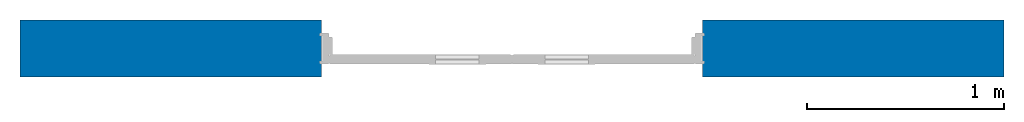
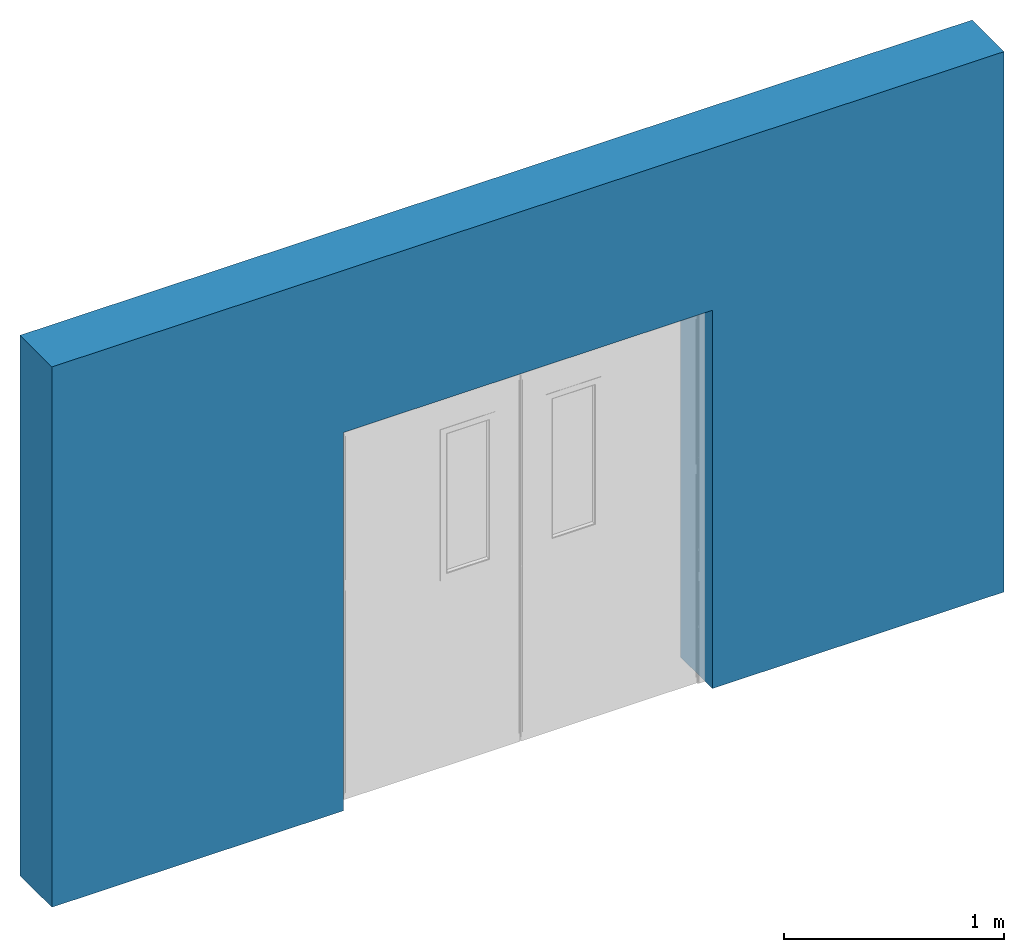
# One storey, incomplete: 1 wall, 1 opening.
"""IFC2X3 building model written with IfcOpenShell, lengths in millimetres."""

import ifcopenshell
import ifcopenshell.guid

model = None  # the IFC model being written
_history = None  # IfcOwnerHistory: only IFC2X3 demands one
_inside = {}  # id of a spatial element -> (the spatial element, [elements in it])
_under = {}  # id of a project, library or spatial element -> (it, [spatial elements below it])
_declared = {}  # id of a project -> (the project, [libraries it declares])
_typed = {}  # id of a type object -> (the type object, [elements of that type])
_made_of = {}  # id of a material, layer set ... -> (it, [elements and type objects made of it])


def new_model(schema):
    """Start an empty IFC model of exactly this schema.

    Asked for "IFC4X3", IfcOpenShell would pick the latest addendum, in which some entities
    have other attributes; the version numbers below select the first issue.
    IFC2X3 requires an IfcOwnerHistory on every rooted entity: one is made here for all.
    """
    global model, _history
    if schema == "IFC4X3":
        model = ifcopenshell.file(schema_version=(4, 3, 0, 0))
    else:
        model = ifcopenshell.file(schema=schema)
    _inside.clear()
    _under.clear()
    _declared.clear()
    _typed.clear()
    _made_of.clear()
    _history = None
    if model.schema == "IFC2X3":
        org = make("IfcOrganization", Name="unknown")
        user = make(
            "IfcPersonAndOrganization",
            ThePerson=make("IfcPerson", FamilyName="unknown"),
            TheOrganization=org,
        )
        app = make(
            "IfcApplication",
            ApplicationDeveloper=org,
            Version="unknown",
            ApplicationFullName="unknown",
            ApplicationIdentifier="unknown",
        )
        _history = make(
            "IfcOwnerHistory",
            OwningUser=user,
            OwningApplication=app,
            ChangeAction="ADDED",
            CreationDate=0,
        )
    return model


def make(cls, **values):
    """One entity of the class cls with the attributes given. An attribute that is None is left unset."""
    return model.create_entity(
        cls, **{name: value for name, value in values.items() if value is not None}
    )


def entity(cls, *values):
    """Any entity or typed value of the class cls, its attributes in the order of the schema. None: left unset."""
    e = model.create_entity(cls)
    for i, value in enumerate(values):
        if value is not None:
            e[i] = value
    return e


def rooted(cls, **values):
    """An entity with a GlobalId (a new one), such as an element, a storey or a relation."""
    return make(cls, GlobalId=ifcopenshell.guid.new(), OwnerHistory=_history, **values)


def si_unit(unit_type, name, prefix=None):
    """IfcSIUnit, for example si_unit("LENGTHUNIT", "METRE", prefix="MILLI")."""
    return make("IfcSIUnit", UnitType=unit_type, Prefix=prefix, Name=name)


def converted_unit(unit_type, name, factor, base, dimensions=None, offset=None):
    """IfcConversionBasedUnit, such as the inch: factor (a typed value) times the base unit."""
    return make(
        "IfcConversionBasedUnit"
        if offset is None
        else "IfcConversionBasedUnitWithOffset",
        ConversionOffset=offset,
        Dimensions=None
        if dimensions is None
        else entity("IfcDimensionalExponents", *dimensions),
        UnitType=unit_type,
        Name=name,
        ConversionFactor=make(
            "IfcMeasureWithUnit", ValueComponent=factor, UnitComponent=base
        ),
    )


def derived_unit(unit_type, elements):
    """IfcDerivedUnit: a product of units, each with its exponent."""
    return make(
        "IfcDerivedUnit",
        Elements=[
            make("IfcDerivedUnitElement", Unit=unit, Exponent=power)
            for unit, power in elements
        ],
        UnitType=unit_type,
    )


def assignment(units):
    """IfcUnitAssignment: the units of a project."""
    return None if units is None else make("IfcUnitAssignment", Units=units)


def point(xyz):
    """IfcCartesianPoint."""
    return None if xyz is None else make("IfcCartesianPoint", Coordinates=xyz)


def direction(xyz):
    """IfcDirection."""
    return None if xyz is None else make("IfcDirection", DirectionRatios=xyz)


def frame(location, z_axis=None, x_axis=None):
    """IfcAxis2Placement3D, a coordinate frame: its origin and axes. An axis left out is left unset."""
    return make(
        "IfcAxis2Placement3D",
        Location=point(location),
        Axis=direction(z_axis),
        RefDirection=direction(x_axis),
    )


def frame_2d(location, x_axis=None):
    """IfcAxis2Placement2D, a coordinate frame in the plane: its origin and x axis."""
    return make(
        "IfcAxis2Placement2D", Location=point(location), RefDirection=direction(x_axis)
    )


def origin():
    """The frame at (0, 0, 0) with its axes left unset."""
    return frame((0.0, 0.0, 0.0))


def place(relative_to, where):
    """IfcLocalPlacement: puts the frame where relative to a parent placement (None: the world)."""
    return make(
        "IfcLocalPlacement", PlacementRelTo=relative_to, RelativePlacement=where
    )


def context(
    kind, dimensions, precision=None, world=None, true_north=None, identifier=None
):
    """IfcGeometricRepresentationContext, for example the 3D "Model" context."""
    return make(
        "IfcGeometricRepresentationContext",
        ContextIdentifier=identifier,
        ContextType=kind,
        CoordinateSpaceDimension=dimensions,
        Precision=precision,
        WorldCoordinateSystem=world,
        TrueNorth=true_north,
    )


def subcontext(parent, identifier, kind, view, scale=None):
    """IfcGeometricRepresentationSubContext, for example "Body" below "Model"."""
    return make(
        "IfcGeometricRepresentationSubContext",
        ContextIdentifier=identifier,
        ContextType=kind,
        ParentContext=parent,
        TargetScale=scale,
        TargetView=view,
    )


def project(units=None, contexts=None):
    """IfcProject with its units and contexts."""
    return rooted(
        "IfcProject",
        Name="project",
        RepresentationContexts=contexts,
        UnitsInContext=assignment(units),
    )


def spatial(cls, under=None, at=None, **own):
    """A site, building, storey or space (cls), placed at a placement, below another one or the project."""
    s = rooted(cls, ObjectPlacement=at, **own)
    if under is not None:
        _under.setdefault(under.id(), (under, []))[1].append(s)
    return s


def profile(cls, at=None, kind="AREA", **sizes):
    """A parametric profile (cls). Its sizes go by their IFC names, for example OverallWidth=200.0."""
    return make(cls, ProfileType=kind, Position=at, **sizes)


def rectangle(**sizes):
    """IfcRectangleProfileDef."""
    return profile("IfcRectangleProfileDef", **sizes)


def extrude(swept, where, along, depth):
    """IfcExtrudedAreaSolid: the profile swept, set in the frame where, extruded along a direction by depth."""
    return make(
        "IfcExtrudedAreaSolid",
        SweptArea=swept,
        Position=where,
        ExtrudedDirection=direction(along),
        Depth=depth,
    )


def shape(context_of_items, identifier, shape_type, items):
    """IfcShapeRepresentation: the items that make up one representation, for example the "Body"."""
    return make(
        "IfcShapeRepresentation",
        ContextOfItems=context_of_items,
        RepresentationIdentifier=identifier,
        RepresentationType=shape_type,
        Items=items,
    )


def material(Name=None, Category=None):
    """IfcMaterial."""
    return make("IfcMaterial", Name=Name, Category=Category)


def layer(
    of_material, thickness, ventilated=None, Name=None, Category=None, Priority=None
):
    """IfcMaterialLayer: one layer of a wall or slab, of a material (None: an air gap)."""
    return make(
        "IfcMaterialLayer",
        Material=of_material,
        LayerThickness=thickness,
        IsVentilated=ventilated,
        Name=Name,
        Category=Category,
        Priority=Priority,
    )


def layer_set(layers, Name=None):
    """IfcMaterialLayerSet."""
    return make("IfcMaterialLayerSet", MaterialLayers=layers, LayerSetName=Name)


def layer_usage(for_layer_set, set_direction, sense, offset, extent=None):
    """IfcMaterialLayerSetUsage: how a layer set lies in its element."""
    return make(
        "IfcMaterialLayerSetUsage",
        ForLayerSet=for_layer_set,
        LayerSetDirection=set_direction,
        DirectionSense=sense,
        OffsetFromReferenceLine=offset,
        ReferenceExtent=extent,
    )


def made_of(thing, what):
    """Note that an element or type object is made of a material, layer set ...; save() writes the relation."""
    if what is not None:
        _made_of.setdefault(what.id(), (what, []))[1].append(thing)
    return thing


def type_object(cls, material=None, **own):
    """A type object (cls), such as IfcWallType, which elements share."""
    return made_of(rooted(cls, **own), material)


def element(
    cls,
    number,
    at=None,
    inside=None,
    cuts=None,
    type_object=None,
    material=None,
    context=None,
    identifier="Body",
    shape_type=None,
    held_by="IfcProductDefinitionShape",
    body=None,
    shapes=None,
    **own,
):
    """One element of the class cls, such as IfcWall. Its Tag is "e" and its number.

    at: its placement. inside: the storey or other place that contains it. cuts: it is an
    opening in that element (IfcRelVoidsElement). A single representation is given by context,
    identifier, shape_type and body (its items); several are given by shapes. held_by: the class
    of the entity that holds the representations. save() writes the other relations.
    """
    e = rooted(cls, Tag="e%d" % number, ObjectPlacement=at, **own)
    if body is not None:
        shapes = [shape(context, identifier, shape_type, body)]
    if shapes is not None:
        e.Representation = make(held_by, Representations=shapes)
    if inside is not None:
        _inside.setdefault(inside.id(), (inside, []))[1].append(e)
    if cuts is not None:
        rooted(
            "IfcRelVoidsElement", RelatingBuildingElement=cuts, RelatedOpeningElement=e
        )
    if type_object is not None:
        _typed.setdefault(type_object.id(), (type_object, []))[1].append(e)
    return made_of(e, material)


def aggregate(whole, parts):
    """IfcRelAggregates: a whole, such as a stair, and the parts it consists of."""
    return rooted("IfcRelAggregates", RelatingObject=whole, RelatedObjects=parts)


def save(model, path):
    """Write the relations noted so far, then the file.

    IfcRelAggregates (storeys below a building ...), IfcRelContainedInSpatialStructure (elements
    in a storey), IfcRelDefinesByType, IfcRelAssociatesMaterial and IfcRelDeclares: one each for
    every whole, place, type object, material and project.
    """
    for whole, parts in _under.values():
        aggregate(whole, parts)
    for where, things in _inside.values():
        rooted(
            "IfcRelContainedInSpatialStructure",
            RelatedElements=things,
            RelatingStructure=where,
        )
    for kind, things in _typed.values():
        rooted("IfcRelDefinesByType", RelatedObjects=things, RelatingType=kind)
    for what, things in _made_of.values():
        rooted("IfcRelAssociatesMaterial", RelatedObjects=things, RelatingMaterial=what)
    for by, libraries in _declared.values():
        rooted("IfcRelDeclares", RelatingContext=by, RelatedDefinitions=libraries)
    model.write(path)


model = new_model("IFC2X3")

# Units and contexts
model_context = context("Model", 3, precision=0.01, world=origin(), true_north=direction((6.12303176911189e-17, 1.0)))
body_context = subcontext(model_context, "Body", "Model", "MODEL_VIEW")
ifc_project = project(units=[si_unit("LENGTHUNIT", "METRE", prefix="MILLI"), si_unit("AREAUNIT", "SQUARE_METRE"), si_unit("VOLUMEUNIT", "CUBIC_METRE"), converted_unit("PLANEANGLEUNIT", "DEGREE", entity("IfcRatioMeasure", 0.0174532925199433), si_unit("PLANEANGLEUNIT", "RADIAN"), dimensions=[0, 0, 0, 0, 0, 0, 0]), si_unit("MASSUNIT", "GRAM", prefix="KILO"), si_unit("TIMEUNIT", "SECOND"), si_unit("FREQUENCYUNIT", "HERTZ"), si_unit("THERMODYNAMICTEMPERATUREUNIT", "DEGREE_CELSIUS"), derived_unit("THERMALTRANSMITTANCEUNIT", [(si_unit("MASSUNIT", "GRAM", prefix="KILO"), 1), (si_unit("THERMODYNAMICTEMPERATUREUNIT", "KELVIN"), -1), (si_unit("TIMEUNIT", "SECOND"), -3)]), derived_unit("VOLUMETRICFLOWRATEUNIT", [(si_unit("LENGTHUNIT", "METRE"), 3), (si_unit("TIMEUNIT", "SECOND"), -1)]), si_unit("ELECTRICCURRENTUNIT", "AMPERE"), si_unit("ELECTRICVOLTAGEUNIT", "VOLT"), si_unit("POWERUNIT", "WATT"), si_unit("FORCEUNIT", "NEWTON", prefix="KILO"), si_unit("ILLUMINANCEUNIT", "LUX"), si_unit("LUMINOUSFLUXUNIT", "LUMEN"), si_unit("LUMINOUSINTENSITYUNIT", "CANDELA"), si_unit("PRESSUREUNIT", "PASCAL")], contexts=[model_context])

# Site, building, storey
site_placement = place(None, origin())
site = spatial("IfcSite", under=ifc_project, at=site_placement, Name="Default", CompositionType="ELEMENT")
building_placement = place(site_placement, origin())
building = spatial("IfcBuilding", under=site, at=building_placement, CompositionType="ELEMENT")
storey_placement = place(building_placement, origin())
storey = spatial("IfcBuildingStorey", under=building, at=storey_placement, Name="Level 0", CompositionType="ELEMENT", Elevation=0.0)

# Wall, opening
ifc_material_1 = material(Name="Brick, Common")
ifc_layer_1 = layer(ifc_material_1, 102.5)
ifc_material_2 = material(Name="Fiberglass Batt")
ifc_layer_2 = layer(ifc_material_2, 75.0)
ifc_material_3 = material(Name="Concrete Masonry Units")
ifc_layer_3 = layer(ifc_material_3, 100.0)
ifc_material_4 = material(Name="Gypsum Wall Board")
ifc_layer_4 = layer(ifc_material_4, 12.5)
ifc_layer_set = layer_set([ifc_layer_1, ifc_layer_2, ifc_layer_3, ifc_layer_4], Name="Basic Wall:Cav - 102 75i 100 p - Lwt")
ifc_layer_usage = layer_usage(ifc_layer_set, "AXIS2", "POSITIVE", -145.0)
wall_type = type_object("IfcWallType", Name="Basic Wall:Cav - 102 75i 100 p - Lwt", PredefinedType="STANDARD", material=ifc_layer_set)
wall_placement = place(storey_placement, frame((-2504.9500028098, -2.69454281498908, 0.0)))
wall = element("IfcWallStandardCase", 1, at=wall_placement, inside=storey, type_object=wall_type, material=ifc_layer_usage, Name="Basic Wall:Cav - 102 75i 100 p - Lwt", ObjectType="Basic Wall:Cav - 102 75i 100 p - Lwt", context=body_context, shape_type="SweptSolid", body=[
    extrude(rectangle(XDim=5000.0, YDim=290.0, at=frame_2d((2500.0, 0.0), x_axis=(-1.0, 0.0))), origin(), (0.0, 0.0, 1.0), 3000.0),
])
opening_placement = place(wall_placement, frame((2504.9500028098, 2.69454281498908, 0.0)))
element("IfcOpeningElement", 2, at=opening_placement, cuts=wall, Name="Basic Wall:Cav - 102 75i 100 p - Lwt", ObjectType="Opening", context=body_context, shape_type="SweptSolid", body=[
    extrude(rectangle(XDim=2099.99999999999, YDim=1935.99999999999, at=frame_2d((0.0, 0.0), x_axis=(0.0, 1.0))), frame((-4.95000280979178, -152.694542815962, 1050.0), z_axis=(0.0, 1.0, 0.0), x_axis=(1.0, 0.0, 0.0)), (0.0, 0.0, 1.0), 300.000000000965),
])

save(model, "model.ifc")
